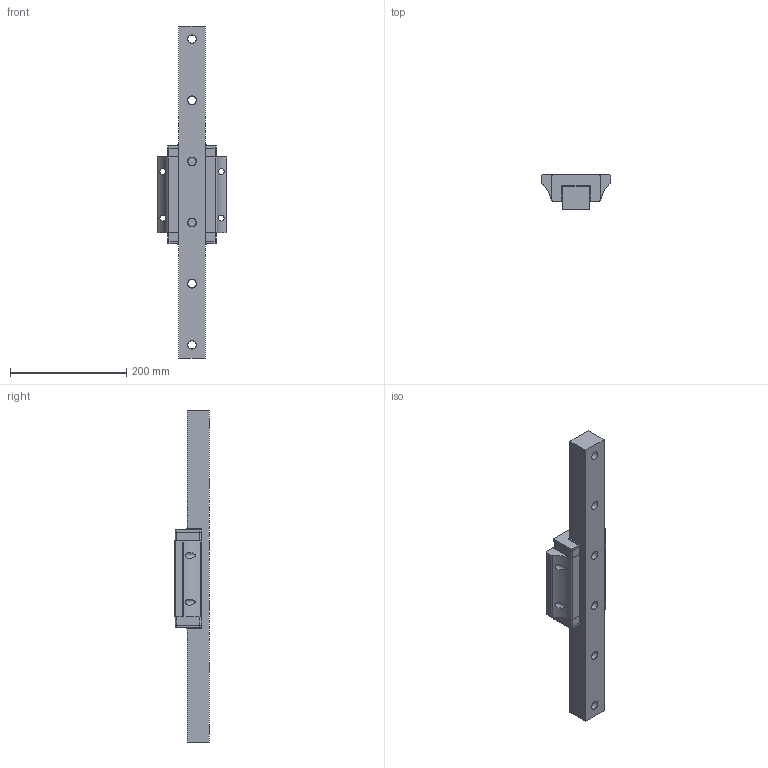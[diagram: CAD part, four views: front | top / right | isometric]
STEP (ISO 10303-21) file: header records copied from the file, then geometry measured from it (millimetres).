
FILE_DESCRIPTION((''),'2;1');
FILE_NAME('E:\PDF郪磁芞\DFH45AL.STP','2018-01-27T14:12:37',(''),(''),'STEP Write','Mastercam V9 ... CNC Software, Inc.','');
FILE_SCHEMA(('CONFIG_CONTROL_DESIGN'));
Length unit declared in the file: millimetre
Bounding box: 120 x 60.05 x 570 mm (x, y, z)
Volume: 1493093.2 mm3; surface area: 197148.8 mm2
Topology: 6 solids, 6 shells, 132 faces, 673 edges, 886 vertices
Faces by surface type: plane 84, cylinder 36, cone 12
Full cylindrical faces by diameter (mm): 10.5 x4, 14 x6, 20 x6
Entity records: 7502 total; most frequent: CARTESIAN_POINT 2828, DIRECTION 1037, ORIENTED_EDGE 636, VECTOR 437, LINE 437, TRIMMED_CURVE 319, EDGE_CURVE 318, AXIS2_PLACEMENT_3D 300
